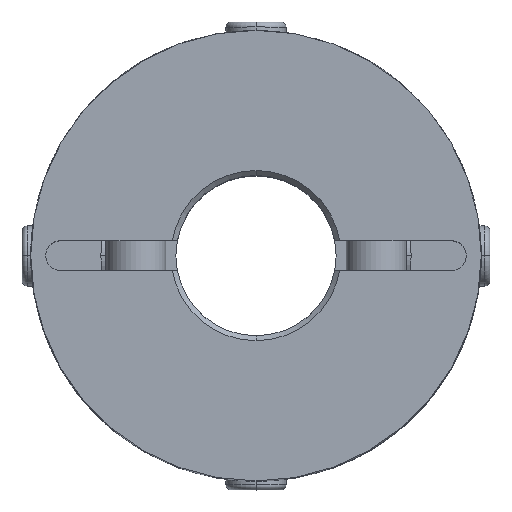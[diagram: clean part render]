
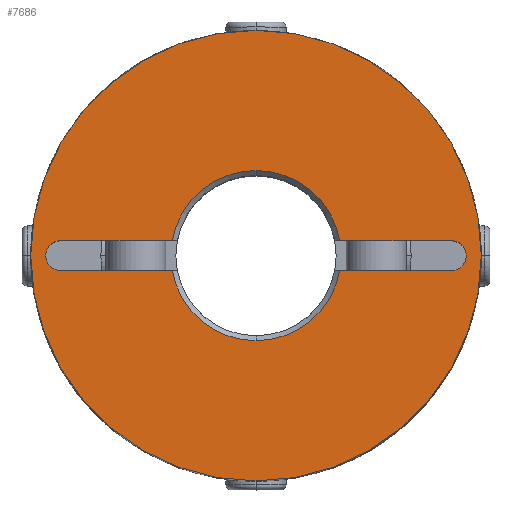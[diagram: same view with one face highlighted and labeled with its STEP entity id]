
A CAD part, top view. The second image highlights one B-rep face of the part: STEP entity #7686.
In plain terms, the highlighted planar face has unit normal (0, 0, 1).
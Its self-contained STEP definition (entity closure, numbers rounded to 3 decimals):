
#783=CARTESIAN_POINT('',(0.,22.5,22.5));
#784=VERTEX_POINT('',#783);
#791=CARTESIAN_POINT('',(0.,-22.5,22.5));
#792=VERTEX_POINT('',#791);
#793=CARTESIAN_POINT('',(0.0,0.0,22.5));
#794=DIRECTION('',(0.0,0.0,-1.0));
#795=DIRECTION('',(0.0,-1.0,0.0));
#796=AXIS2_PLACEMENT_3D('',#793,#794,#795);
#797=CIRCLE('',#796,22.5);
#798=EDGE_CURVE('',#784,#792,#797,.T.);
#1113=CARTESIAN_POINT('',(20.561,1.061,22.5));
#1114=VERTEX_POINT('',#1113);
#1130=CARTESIAN_POINT('',(19.5,-1.5,22.5));
#1131=VERTEX_POINT('',#1130);
#1138=CARTESIAN_POINT('',(19.5,0.,22.5));
#1139=DIRECTION('',(0.0,0.0,1.0));
#1140=DIRECTION('',(0.707,-0.707,0.0));
#1141=AXIS2_PLACEMENT_3D('',#1138,#1139,#1140);
#1142=CIRCLE('',#1141,1.5);
#1143=EDGE_CURVE('',#1131,#1114,#1142,.T.);
#1155=CARTESIAN_POINT('',(-20.561,-1.061,22.5));
#1156=VERTEX_POINT('',#1155);
#1172=CARTESIAN_POINT('',(-19.5,1.5,22.5));
#1173=VERTEX_POINT('',#1172);
#1180=CARTESIAN_POINT('',(-19.5,0.,22.5));
#1181=DIRECTION('',(0.0,0.0,1.0));
#1182=DIRECTION('',(-0.707,0.707,0.0));
#1183=AXIS2_PLACEMENT_3D('',#1180,#1181,#1182);
#1184=CIRCLE('',#1183,1.5);
#1185=EDGE_CURVE('',#1173,#1156,#1184,.T.);
#1909=CARTESIAN_POINT('',(0.,8.5,22.5));
#1910=VERTEX_POINT('',#1909);
#1918=CARTESIAN_POINT('',(8.367,1.5,22.5));
#1919=VERTEX_POINT('',#1918);
#1933=CARTESIAN_POINT('',(0.0,0.0,22.5));
#1934=DIRECTION('',(0.0,0.0,1.0));
#1935=DIRECTION('',(0.0,1.0,0.0));
#1936=AXIS2_PLACEMENT_3D('',#1933,#1934,#1935);
#1937=CIRCLE('',#1936,8.5);
#1938=EDGE_CURVE('',#1919,#1910,#1937,.T.);
#1948=CARTESIAN_POINT('',(0.,-8.5,22.5));
#1949=VERTEX_POINT('',#1948);
#1965=CARTESIAN_POINT('',(-8.367,-1.5,22.5));
#1966=VERTEX_POINT('',#1965);
#1980=CARTESIAN_POINT('',(0.0,0.0,22.5));
#1981=DIRECTION('',(0.0,0.0,1.0));
#1982=DIRECTION('',(0.0,-1.0,0.0));
#1983=AXIS2_PLACEMENT_3D('',#1980,#1981,#1982);
#1984=CIRCLE('',#1983,8.5);
#1985=EDGE_CURVE('',#1966,#1949,#1984,.T.);
#7424=CARTESIAN_POINT('',(19.5,1.5,22.5));
#7425=VERTEX_POINT('',#7424);
#7432=CARTESIAN_POINT('',(8.367,1.5,22.5));
#7433=DIRECTION('',(1.0,0.0,0.0));
#7434=VECTOR('',#7433,11.133);
#7435=LINE('',#7432,#7434);
#7436=EDGE_CURVE('',#1919,#7425,#7435,.T.);
#7571=CARTESIAN_POINT('',(8.367,-1.5,22.5));
#7572=VERTEX_POINT('',#7571);
#7586=CARTESIAN_POINT('',(19.5,-1.5,22.5));
#7587=DIRECTION('',(-1.0,0.0,0.0));
#7588=VECTOR('',#7587,11.133);
#7589=LINE('',#7586,#7588);
#7590=EDGE_CURVE('',#1131,#7572,#7589,.T.);
#7613=CARTESIAN_POINT('',(0.0,0.0,22.5));
#7614=DIRECTION('',(0.0,0.0,1.0));
#7615=DIRECTION('',(0.0,-1.0,0.0));
#7616=AXIS2_PLACEMENT_3D('',#7613,#7614,#7615);
#7617=CIRCLE('',#7616,8.5);
#7618=EDGE_CURVE('',#1949,#7572,#7617,.T.);
#7625=CARTESIAN_POINT('',(0.,-2.045,22.5));
#7626=DIRECTION('',(0.0,0.0,1.0));
#7627=DIRECTION('',(0.0,-1.0,0.0));
#7628=AXIS2_PLACEMENT_3D('',#7625,#7626,#7627);
#7629=PLANE('',#7628);
#7630=CARTESIAN_POINT('',(0.0,0.0,22.5));
#7631=DIRECTION('',(0.0,0.0,-1.0));
#7632=DIRECTION('',(0.0,-1.0,0.0));
#7633=AXIS2_PLACEMENT_3D('',#7630,#7631,#7632);
#7634=CIRCLE('',#7633,22.5);
#7635=EDGE_CURVE('',#792,#784,#7634,.T.);
#7636=ORIENTED_EDGE('',*,*,#7635,.F.);
#7637=ORIENTED_EDGE('',*,*,#798,.F.);
#7638=EDGE_LOOP('',(#7636,#7637));
#7639=FACE_OUTER_BOUND('',#7638,.T.);
#7640=ORIENTED_EDGE('',*,*,#1985,.F.);
#7641=CARTESIAN_POINT('',(-19.5,-1.5,22.5));
#7642=VERTEX_POINT('',#7641);
#7643=CARTESIAN_POINT('',(-8.367,-1.5,22.5));
#7644=DIRECTION('',(-1.0,0.0,0.0));
#7645=VECTOR('',#7644,11.133);
#7646=LINE('',#7643,#7645);
#7647=EDGE_CURVE('',#1966,#7642,#7646,.T.);
#7648=ORIENTED_EDGE('',*,*,#7647,.T.);
#7649=CARTESIAN_POINT('',(-19.5,0.,22.5));
#7650=DIRECTION('',(0.0,0.0,1.0));
#7651=DIRECTION('',(-0.707,0.707,0.0));
#7652=AXIS2_PLACEMENT_3D('',#7649,#7650,#7651);
#7653=CIRCLE('',#7652,1.5);
#7654=EDGE_CURVE('',#1156,#7642,#7653,.T.);
#7655=ORIENTED_EDGE('',*,*,#7654,.F.);
#7656=ORIENTED_EDGE('',*,*,#1185,.F.);
#7657=CARTESIAN_POINT('',(-8.367,1.5,22.5));
#7658=VERTEX_POINT('',#7657);
#7659=CARTESIAN_POINT('',(-19.5,1.5,22.5));
#7660=DIRECTION('',(1.0,0.0,0.0));
#7661=VECTOR('',#7660,11.133);
#7662=LINE('',#7659,#7661);
#7663=EDGE_CURVE('',#1173,#7658,#7662,.T.);
#7664=ORIENTED_EDGE('',*,*,#7663,.T.);
#7665=CARTESIAN_POINT('',(0.0,0.0,22.5));
#7666=DIRECTION('',(0.0,0.0,1.0));
#7667=DIRECTION('',(0.0,1.0,0.0));
#7668=AXIS2_PLACEMENT_3D('',#7665,#7666,#7667);
#7669=CIRCLE('',#7668,8.5);
#7670=EDGE_CURVE('',#1910,#7658,#7669,.T.);
#7671=ORIENTED_EDGE('',*,*,#7670,.F.);
#7672=ORIENTED_EDGE('',*,*,#1938,.F.);
#7673=ORIENTED_EDGE('',*,*,#7436,.T.);
#7674=CARTESIAN_POINT('',(19.5,0.,22.5));
#7675=DIRECTION('',(0.0,0.0,1.0));
#7676=DIRECTION('',(0.707,-0.707,0.0));
#7677=AXIS2_PLACEMENT_3D('',#7674,#7675,#7676);
#7678=CIRCLE('',#7677,1.5);
#7679=EDGE_CURVE('',#1114,#7425,#7678,.T.);
#7680=ORIENTED_EDGE('',*,*,#7679,.F.);
#7681=ORIENTED_EDGE('',*,*,#1143,.F.);
#7682=ORIENTED_EDGE('',*,*,#7590,.T.);
#7683=ORIENTED_EDGE('',*,*,#7618,.F.);
#7684=EDGE_LOOP('',(#7640,#7648,#7655,#7656,#7664,#7671,#7672,#7673,#7680,#7681,#7682,#7683));
#7685=FACE_BOUND('',#7684,.T.);
#7686=ADVANCED_FACE('',(#7639,#7685),#7629,.T.);
